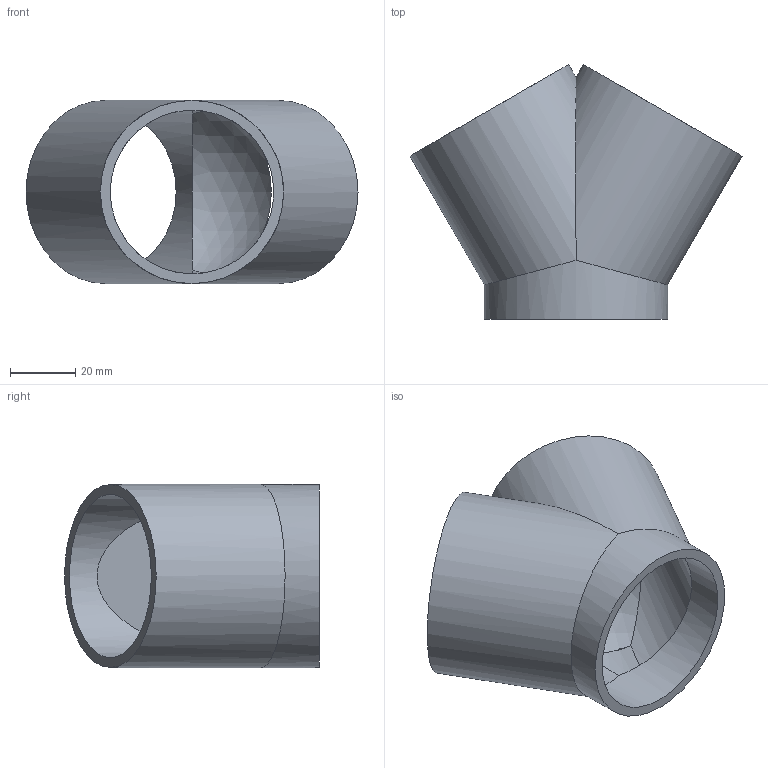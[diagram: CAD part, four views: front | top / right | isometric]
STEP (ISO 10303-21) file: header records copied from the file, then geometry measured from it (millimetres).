
FILE_DESCRIPTION(/* description */ (''),/* implementation_level */ '2;1');
FILE_NAME(/* name */ 'Z:\Geberit\Export\NewStep\363465.stp',/* time_stamp */ '2014-04-01T21:09:08+02:00',/* author */ ('nelson'),/* organization */ (''),/* preprocessor_version */ 'ST-DEVELOPER v15.2',/* originating_system */ 'Autodesk Inventor 2014',/* authorisation */ '');
FILE_SCHEMA (('AUTOMOTIVE_DESIGN { 1 0 10303 214 3 1 1 }'));
Length unit declared in the file: millimetre
Products named in the file (1): 363465
Bounding box: 101.5 x 77.9 x 56 mm (x, y, z)
Volume: 52157.2 mm3; surface area: 33974.7 mm2
Topology: 1 solids, 1 shells, 13 faces, 33 edges, 21 vertices
Faces by surface type: cylinder 8, plane 4, sphere 1
Full cylindrical faces by diameter (mm): 50 x3, 56 x3
Entity records: 374 total; most frequent: CARTESIAN_POINT 88, DIRECTION 62, ORIENTED_EDGE 38, AXIS2_PLACEMENT_3D 31, EDGE_LOOP 21, EDGE_CURVE 19, VERTEX_POINT 14, STYLED_ITEM 13
